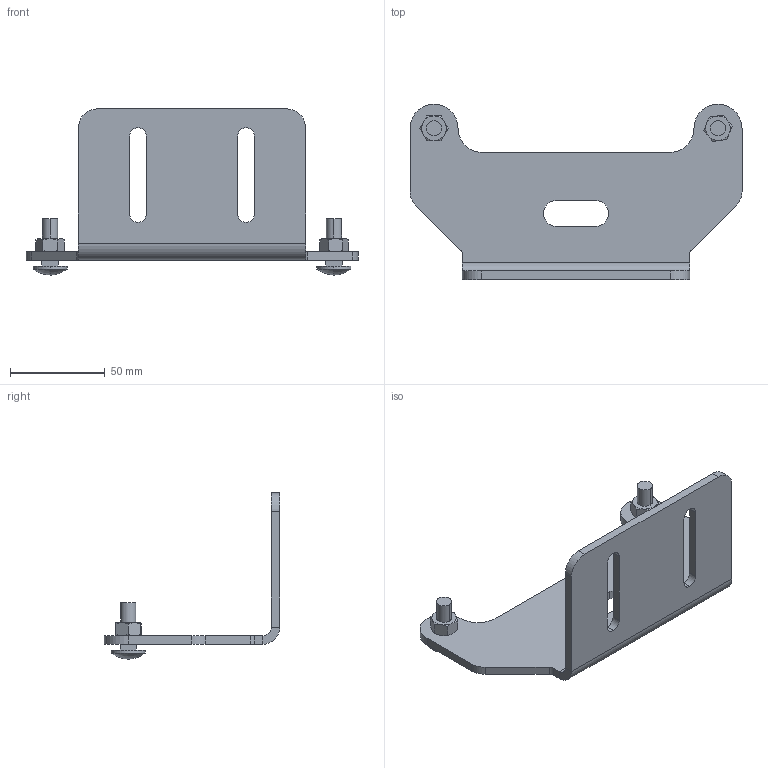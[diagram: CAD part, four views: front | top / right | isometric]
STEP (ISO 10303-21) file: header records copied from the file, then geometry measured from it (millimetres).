
FILE_DESCRIPTION((''),'2;1');
FILE_NAME('351518_ASM','2023-03-03T',('jenni.wallner'),(''),'PRO/ENGINEER BY PARAMETRIC TECHNOLOGY CORPORATION, 2012420','PRO/ENGINEER BY PARAMETRIC TECHNOLOGY CORPORATION, 2012420','');
FILE_SCHEMA(('CONFIG_CONTROL_DESIGN'));
Length unit declared in the file: inch
Products named in the file (5): 9008XXM_900825MY; 351517; 990801M; ASM0001_ASM; 351518_ASM
Assembly tree (6 placements, depth 3):
  351518_ASM
    ASM0001_ASM
      9008XXM_900825MY  x2
      351517
      990801M  x2
Bounding box: 175.4 x 92.73 x 87.85 mm (x, y, z)
Volume: 90577.6 mm3; surface area: 45943.5 mm2
Topology: 5 solids, 5 shells, 133 faces, 329 edges, 210 vertices
Faces by surface type: plane 60, cylinder 41, cone 28, sphere 4
Entity records: 3256 total; most frequent: CARTESIAN_POINT 678, DIRECTION 543, ORIENTED_EDGE 498, EDGE_CURVE 249, AXIS2_PLACEMENT_3D 206, VERTEX_POINT 161, VECTOR 131, LINE 131
